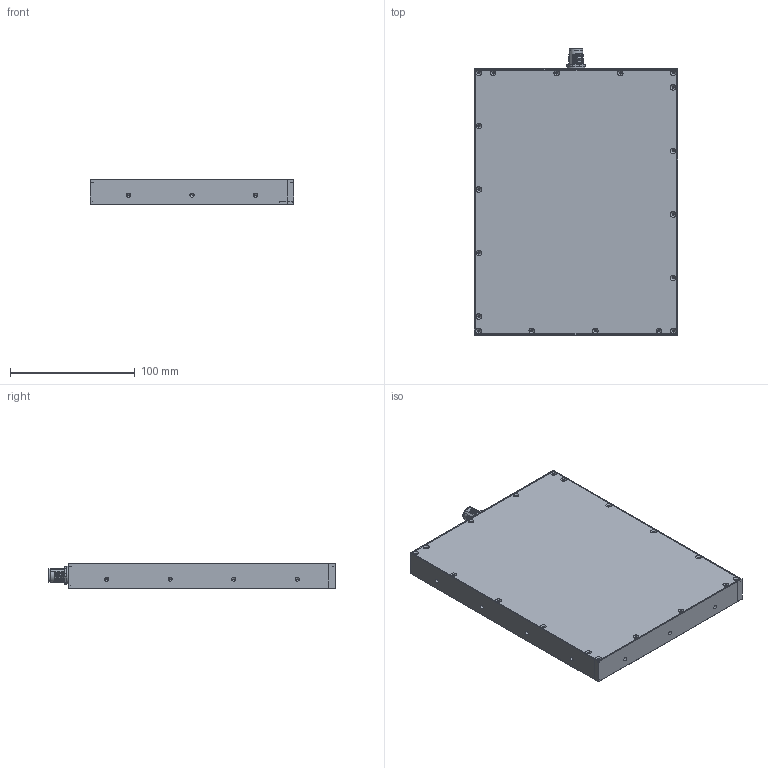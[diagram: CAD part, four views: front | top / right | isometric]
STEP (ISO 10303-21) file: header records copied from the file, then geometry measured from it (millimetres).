
FILE_DESCRIPTION (( 'STEP AP214' ), '1' );
FILE_NAME ('SBACK II 200x150.STEP', '2015-12-03T08:15:28', ( '' ), ( '' ), 'SwSTEP 2.0', 'SolidWorks 2013', '' );
FILE_SCHEMA (( 'AUTOMOTIVE_DESIGN' ));
Length unit declared in the file: millimetre
Products named in the file (9): connecteur M12; 006014_version connecteur; SBACK II 200x150; EC-03-051-105_150x200; EC-03-051-312; Ecrou; EC-03-051-301; Joint; EC-03-051-118
Assembly tree (9 placements, depth 2):
  SBACK II 200x150
    EC-03-051-118
    EC-03-051-301  x2
    EC-03-051-312
    EC-03-051-105_150x200
    006014_version connecteur
    connecteur M12
    Joint
    Ecrou
Bounding box: 163 x 230 x 20 mm (x, y, z)
Volume: 228118.1 mm3; surface area: 180112.4 mm2
Topology: 9 solids, 9 shells, 534 faces, 1400 edges, 843 vertices
Faces by surface type: cylinder 212, cone 134, plane 132, bspline 48, sphere 8
Entity records: 33392 total; most frequent: CARTESIAN_POINT 21376, ORIENTED_EDGE 2314, DIRECTION 2190, EDGE_CURVE 1157, AXIS2_PLACEMENT_3D 807, VERTEX_POINT 741, LINE 576, VECTOR 576
